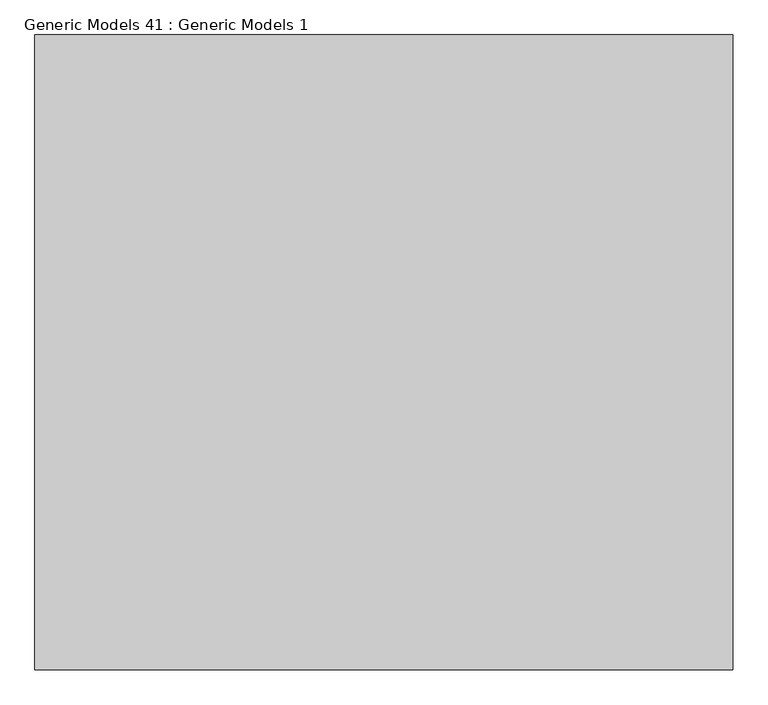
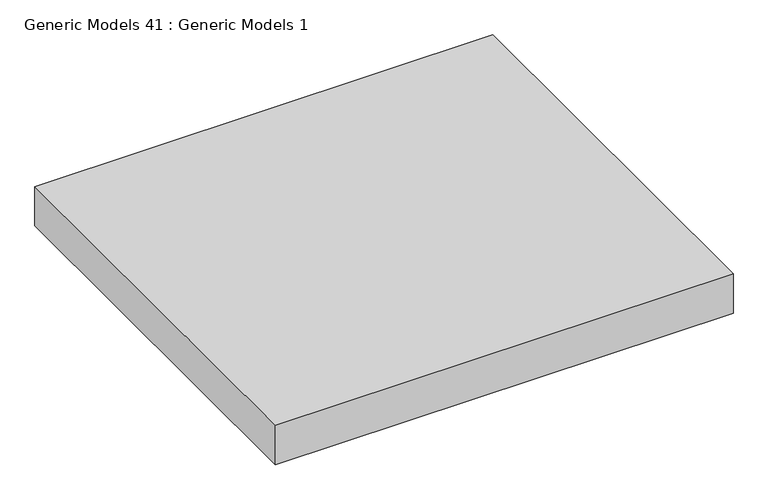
"""IFC4 building model written with IfcOpenShell, lengths in millimetres: proxy geometry, Generic Models 41 : Generic Models 1."""

import ifcopenshell
import ifcopenshell.guid

model = None  # the IFC model being written
_history = None  # IfcOwnerHistory: only IFC2X3 demands one
_inside = {}  # id of a spatial element -> (the spatial element, [elements in it])
_under = {}  # id of a project, library or spatial element -> (it, [spatial elements below it])
_declared = {}  # id of a project -> (the project, [libraries it declares])
_typed = {}  # id of a type object -> (the type object, [elements of that type])
_made_of = {}  # id of a material, layer set ... -> (it, [elements and type objects made of it])


def new_model(schema):
    """Start an empty IFC model of exactly this schema.

    Asked for "IFC4X3", IfcOpenShell would pick the latest addendum, in which some entities
    have other attributes; the version numbers below select the first issue.
    IFC2X3 requires an IfcOwnerHistory on every rooted entity: one is made here for all.
    """
    global model, _history
    if schema == "IFC4X3":
        model = ifcopenshell.file(schema_version=(4, 3, 0, 0))
    else:
        model = ifcopenshell.file(schema=schema)
    _inside.clear()
    _under.clear()
    _declared.clear()
    _typed.clear()
    _made_of.clear()
    _history = None
    if model.schema == "IFC2X3":
        org = make("IfcOrganization", Name="unknown")
        user = make(
            "IfcPersonAndOrganization",
            ThePerson=make("IfcPerson", FamilyName="unknown"),
            TheOrganization=org,
        )
        app = make(
            "IfcApplication",
            ApplicationDeveloper=org,
            Version="unknown",
            ApplicationFullName="unknown",
            ApplicationIdentifier="unknown",
        )
        _history = make(
            "IfcOwnerHistory",
            OwningUser=user,
            OwningApplication=app,
            ChangeAction="ADDED",
            CreationDate=0,
        )
    return model


def make(cls, **values):
    """One entity of the class cls with the attributes given. An attribute that is None is left unset."""
    return model.create_entity(
        cls, **{name: value for name, value in values.items() if value is not None}
    )


def rooted(cls, **values):
    """An entity with a GlobalId (a new one), such as an element, a storey or a relation."""
    return make(cls, GlobalId=ifcopenshell.guid.new(), OwnerHistory=_history, **values)


def si_unit(unit_type, name, prefix=None):
    """IfcSIUnit, for example si_unit("LENGTHUNIT", "METRE", prefix="MILLI")."""
    return make("IfcSIUnit", UnitType=unit_type, Prefix=prefix, Name=name)


def assignment(units):
    """IfcUnitAssignment: the units of a project."""
    return None if units is None else make("IfcUnitAssignment", Units=units)


def point(xyz):
    """IfcCartesianPoint."""
    return None if xyz is None else make("IfcCartesianPoint", Coordinates=xyz)


def direction(xyz):
    """IfcDirection."""
    return None if xyz is None else make("IfcDirection", DirectionRatios=xyz)


def frame(location, z_axis=None, x_axis=None):
    """IfcAxis2Placement3D, a coordinate frame: its origin and axes. An axis left out is left unset."""
    return make(
        "IfcAxis2Placement3D",
        Location=point(location),
        Axis=direction(z_axis),
        RefDirection=direction(x_axis),
    )


def origin():
    """The frame at (0, 0, 0) with its axes left unset."""
    return frame((0.0, 0.0, 0.0))


def origin_with_axes():
    """The frame at (0, 0, 0) with the z axis (0, 0, 1) and the x axis (1, 0, 0) written out."""
    return frame((0.0, 0.0, 0.0), z_axis=(0.0, 0.0, 1.0), x_axis=(1.0, 0.0, 0.0))


def place(relative_to, where):
    """IfcLocalPlacement: puts the frame where relative to a parent placement (None: the world)."""
    return make(
        "IfcLocalPlacement", PlacementRelTo=relative_to, RelativePlacement=where
    )


def context(
    kind, dimensions, precision=None, world=None, true_north=None, identifier=None
):
    """IfcGeometricRepresentationContext, for example the 3D "Model" context."""
    return make(
        "IfcGeometricRepresentationContext",
        ContextIdentifier=identifier,
        ContextType=kind,
        CoordinateSpaceDimension=dimensions,
        Precision=precision,
        WorldCoordinateSystem=world,
        TrueNorth=true_north,
    )


def project(units=None, contexts=None):
    """IfcProject with its units and contexts."""
    return rooted(
        "IfcProject",
        Name="project",
        RepresentationContexts=contexts,
        UnitsInContext=assignment(units),
    )


def spatial(cls, under=None, at=None, **own):
    """A site, building, storey or space (cls), placed at a placement, below another one or the project."""
    s = rooted(cls, ObjectPlacement=at, **own)
    if under is not None:
        _under.setdefault(under.id(), (under, []))[1].append(s)
    return s


def polyline(points):
    """IfcPolyline through the points."""
    return make("IfcPolyline", Points=[point(p) for p in points])


def outline(outer, holes=None, kind="AREA"):
    """IfcArbitraryClosedProfileDef: a profile drawn as a closed curve; with holes, ...WithVoids."""
    if holes is None:
        return make("IfcArbitraryClosedProfileDef", ProfileType=kind, OuterCurve=outer)
    return make(
        "IfcArbitraryProfileDefWithVoids",
        ProfileType=kind,
        OuterCurve=outer,
        InnerCurves=holes,
    )


def extrude(swept, where, along, depth):
    """IfcExtrudedAreaSolid: the profile swept, set in the frame where, extruded along a direction by depth."""
    return make(
        "IfcExtrudedAreaSolid",
        SweptArea=swept,
        Position=where,
        ExtrudedDirection=direction(along),
        Depth=depth,
    )


def shape(context_of_items, identifier, shape_type, items):
    """IfcShapeRepresentation: the items that make up one representation, for example the "Body"."""
    return make(
        "IfcShapeRepresentation",
        ContextOfItems=context_of_items,
        RepresentationIdentifier=identifier,
        RepresentationType=shape_type,
        Items=items,
    )


def source(mapping_origin, context_of_items, identifier, shape_type, items):
    """IfcRepresentationMap: a shape defined once, which mapped items show again and again."""
    return make(
        "IfcRepresentationMap",
        MappingOrigin=mapping_origin,
        MappedRepresentation=shape(context_of_items, identifier, shape_type, items),
    )


def transform(
    local_origin,
    x_axis=None,
    y_axis=None,
    z_axis=None,
    scale=None,
    scale2=None,
    scale3=None,
    uniform=True,
):
    """IfcCartesianTransformationOperator3D, or its non-uniform kind. x_axis, y_axis, z_axis: its Axis1, 2, 3."""
    if uniform:
        return make(
            "IfcCartesianTransformationOperator3D",
            Axis1=direction(x_axis),
            Axis2=direction(y_axis),
            LocalOrigin=point(local_origin),
            Scale=scale,
            Axis3=direction(z_axis),
        )
    return make(
        "IfcCartesianTransformationOperator3DnonUniform",
        Axis1=direction(x_axis),
        Axis2=direction(y_axis),
        LocalOrigin=point(local_origin),
        Scale=scale,
        Axis3=direction(z_axis),
        Scale2=scale2,
        Scale3=scale3,
    )


def mapped(mapping_source, mapping_target):
    """IfcMappedItem: shows the shape of a source again, moved by a transform."""
    return make(
        "IfcMappedItem", MappingSource=mapping_source, MappingTarget=mapping_target
    )


def made_of(thing, what):
    """Note that an element or type object is made of a material, layer set ...; save() writes the relation."""
    if what is not None:
        _made_of.setdefault(what.id(), (what, []))[1].append(thing)
    return thing


def element(
    cls,
    number,
    at=None,
    inside=None,
    cuts=None,
    type_object=None,
    material=None,
    context=None,
    identifier="Body",
    shape_type=None,
    held_by="IfcProductDefinitionShape",
    body=None,
    shapes=None,
    **own,
):
    """One element of the class cls, such as IfcWall. Its Tag is "e" and its number.

    at: its placement. inside: the storey or other place that contains it. cuts: it is an
    opening in that element (IfcRelVoidsElement). A single representation is given by context,
    identifier, shape_type and body (its items); several are given by shapes. held_by: the class
    of the entity that holds the representations. save() writes the other relations.
    """
    e = rooted(cls, Tag="e%d" % number, ObjectPlacement=at, **own)
    if body is not None:
        shapes = [shape(context, identifier, shape_type, body)]
    if shapes is not None:
        e.Representation = make(held_by, Representations=shapes)
    if inside is not None:
        _inside.setdefault(inside.id(), (inside, []))[1].append(e)
    if cuts is not None:
        rooted(
            "IfcRelVoidsElement", RelatingBuildingElement=cuts, RelatedOpeningElement=e
        )
    if type_object is not None:
        _typed.setdefault(type_object.id(), (type_object, []))[1].append(e)
    return made_of(e, material)


def aggregate(whole, parts):
    """IfcRelAggregates: a whole, such as a stair, and the parts it consists of."""
    return rooted("IfcRelAggregates", RelatingObject=whole, RelatedObjects=parts)


def save(model, path):
    """Write the relations noted so far, then the file.

    IfcRelAggregates (storeys below a building ...), IfcRelContainedInSpatialStructure (elements
    in a storey), IfcRelDefinesByType, IfcRelAssociatesMaterial and IfcRelDeclares: one each for
    every whole, place, type object, material and project.
    """
    for whole, parts in _under.values():
        aggregate(whole, parts)
    for where, things in _inside.values():
        rooted(
            "IfcRelContainedInSpatialStructure",
            RelatedElements=things,
            RelatingStructure=where,
        )
    for kind, things in _typed.values():
        rooted("IfcRelDefinesByType", RelatedObjects=things, RelatingType=kind)
    for what, things in _made_of.values():
        rooted("IfcRelAssociatesMaterial", RelatedObjects=things, RelatingMaterial=what)
    for by, libraries in _declared.values():
        rooted("IfcRelDeclares", RelatingContext=by, RelatedDefinitions=libraries)
    model.write(path)


def generic_models_41_generic_models_1_c03e9e06(model_context):
    return source(origin(), model_context, "Body", "SweptSolid", [
        extrude(outline(polyline([(95.1731655, -3424.1855869), (95.1731655, -2424.1855869), (1195.1731655, -2424.1855869), (1195.1731655, -3424.1855869), (95.1731655, -3424.1855869)])), origin_with_axes(), (0.0, 0.0, 1.0), 100.0),
    ])


if __name__ == "__main__":
    model = new_model("IFC4")
    model_context = context("Model", 3, world=origin())
    ifc_project = project(units=[si_unit("LENGTHUNIT", "METRE", prefix="MILLI")], contexts=[model_context])
    site = spatial("IfcSite", under=ifc_project)
    building = spatial("IfcBuilding", under=site)
    placement = place(None, origin())
    generic_models_41_generic_models_1_shape = generic_models_41_generic_models_1_c03e9e06(model_context)
    element("IfcBuildingElementProxy", 1, Name="Generic Models 41 : Generic Models 1", ObjectType="Generic Models 41 : Generic Models 1", at=placement, inside=building, context=model_context, shape_type="MappedRepresentation", body=[
        mapped(generic_models_41_generic_models_1_shape, transform((0.0, 0.0, 0.0), x_axis=(1.0, 0.0, 0.0), y_axis=(0.0, 1.0, 0.0), z_axis=(0.0, 0.0, 1.0))),
    ])
    save(model, "model.ifc")
